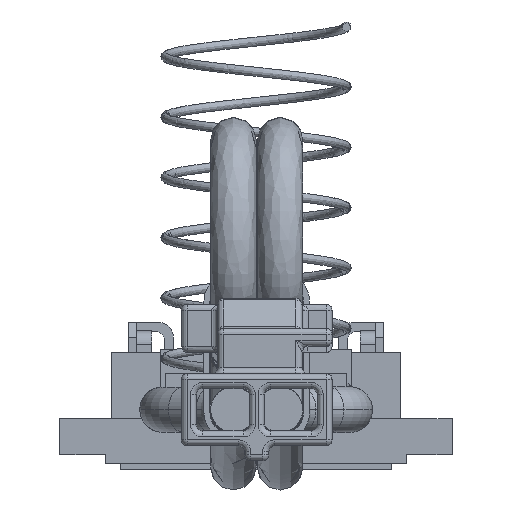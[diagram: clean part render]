
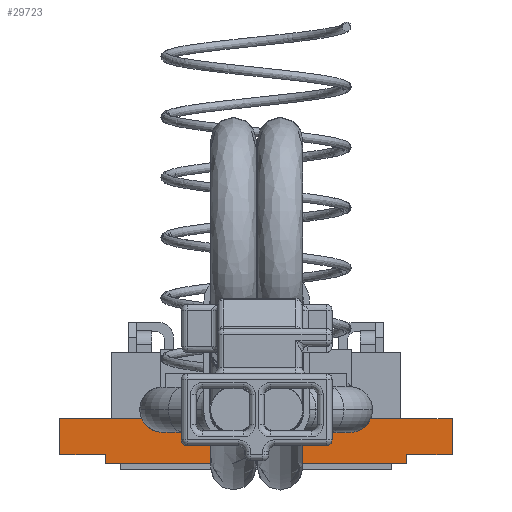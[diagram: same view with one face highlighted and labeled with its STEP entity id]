
A CAD part, left-side view. The second image highlights one B-rep face of the part: STEP entity #29723.
In plain terms, the highlighted planar face has unit normal (-1, 0, 0).
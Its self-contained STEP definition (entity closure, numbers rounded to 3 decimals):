
#94 = CARTESIAN_POINT ( 'NONE',  ( -25., -3.1, 0.74 ) ) ;
#104 = AXIS2_PLACEMENT_3D ( 'NONE', #4076, #14014, #19390 ) ;
#188 = DIRECTION ( 'NONE',  ( 0., 0., 1. ) ) ;
#1331 = CARTESIAN_POINT ( 'NONE',  ( -25., -5., 0. ) ) ;
#1889 = AXIS2_PLACEMENT_3D ( 'NONE', #8942, #30508, #23185 ) ;
#1906 = ORIENTED_EDGE ( 'NONE', *, *, #23669, .F. ) ;
#2147 = VERTEX_POINT ( 'NONE', #19927 ) ;
#2637 = EDGE_CURVE ( 'NONE', #22151, #21062, #11028, .T. ) ;
#2678 = ORIENTED_EDGE ( 'NONE', *, *, #6022, .F. ) ;
#2695 = EDGE_CURVE ( 'NONE', #8199, #28258, #22386, .T. ) ;
#3179 = VECTOR ( 'NONE', #8659, 1000. ) ;
#3352 = CARTESIAN_POINT ( 'NONE',  ( -25., -6.5, 1.2 ) ) ;
#3446 = EDGE_CURVE ( 'NONE', #4476, #17460, #23469, .T. ) ;
#3534 = CARTESIAN_POINT ( 'NONE',  ( -25., 5., 0. ) ) ;
#3681 = DIRECTION ( 'NONE',  ( -1., 0., 0. ) ) ;
#4003 = DIRECTION ( 'NONE',  ( 0., 0., -1. ) ) ;
#4076 = CARTESIAN_POINT ( 'NONE',  ( -25., 3.1, 1.5 ) ) ;
#4405 = EDGE_CURVE ( 'NONE', #21453, #19568, #15669, .T. ) ;
#4475 = DIRECTION ( 'NONE',  ( 0., -1., 0. ) ) ;
#4476 = VERTEX_POINT ( 'NONE', #1331 ) ;
#4633 = CIRCLE ( 'NONE', #104, 0.75 ) ;
#4693 = DIRECTION ( 'NONE',  ( 0., 0., 1. ) ) ;
#4779 = LINE ( 'NONE', #26320, #22896 ) ;
#5228 = VECTOR ( 'NONE', #4475, 1000. ) ;
#5296 = CARTESIAN_POINT ( 'NONE',  ( -25., 3.1, 1.5 ) ) ;
#6022 = EDGE_CURVE ( 'NONE', #22352, #21453, #4633, .T. ) ;
#6045 = VERTEX_POINT ( 'NONE', #28769 ) ;
#6408 = LINE ( 'NONE', #6874, #26729 ) ;
#6542 = VERTEX_POINT ( 'NONE', #10350 ) ;
#6601 = EDGE_CURVE ( 'NONE', #2147, #6542, #6408, .T. ) ;
#6843 = VERTEX_POINT ( 'NONE', #94 ) ;
#6874 = CARTESIAN_POINT ( 'NONE',  ( -25., -5., -0.3 ) ) ;
#7079 = AXIS2_PLACEMENT_3D ( 'NONE', #8888, #27910, #4003 ) ;
#7303 = DIRECTION ( 'NONE',  ( 0., -1., 0. ) ) ;
#7327 = CARTESIAN_POINT ( 'NONE',  ( -25., -5., -0.3 ) ) ;
#7604 = CARTESIAN_POINT ( 'NONE',  ( -25., -5., 1.2 ) ) ;
#8199 = VERTEX_POINT ( 'NONE', #20611 ) ;
#8217 = EDGE_CURVE ( 'NONE', #22151, #16033, #25052, .T. ) ;
#8659 = DIRECTION ( 'NONE',  ( 0., 0., 1. ) ) ;
#8698 = ORIENTED_EDGE ( 'NONE', *, *, #17928, .F. ) ;
#8888 = CARTESIAN_POINT ( 'NONE',  ( -25., -5., -0.3 ) ) ;
#8942 = CARTESIAN_POINT ( 'NONE',  ( -25., -3.1, 1.5 ) ) ;
#9066 = CARTESIAN_POINT ( 'NONE',  ( -25., -5., 0. ) ) ;
#9126 = AXIS2_PLACEMENT_3D ( 'NONE', #5296, #9729, #4693 ) ;
#9373 = ORIENTED_EDGE ( 'NONE', *, *, #6601, .F. ) ;
#9447 = EDGE_CURVE ( 'NONE', #2147, #4476, #16673, .T. ) ;
#9606 = LINE ( 'NONE', #9749, #29558 ) ;
#9729 = DIRECTION ( 'NONE',  ( -1., 0., 0. ) ) ;
#9749 = CARTESIAN_POINT ( 'NONE',  ( -25., -5., 1.2 ) ) ;
#10056 = VECTOR ( 'NONE', #20129, 1000. ) ;
#10350 = CARTESIAN_POINT ( 'NONE',  ( -25., 5., -0.3 ) ) ;
#10458 = CIRCLE ( 'NONE', #1889, 0.76 ) ;
#10763 = CARTESIAN_POINT ( 'NONE',  ( -25., -6.5, 0. ) ) ;
#10960 = ORIENTED_EDGE ( 'NONE', *, *, #22543, .F. ) ;
#11028 = LINE ( 'NONE', #20695, #3179 ) ;
#12215 = DIRECTION ( 'NONE',  ( 0., 0., 1. ) ) ;
#12449 = CARTESIAN_POINT ( 'NONE',  ( -25., 3.787, 1.2 ) ) ;
#13266 = EDGE_LOOP ( 'NONE', ( #16202, #22250, #23195, #18402, #8698, #26604, #10960, #23616, #2678, #1906, #26344, #21058, #25407, #9373 ) ) ;
#13329 = DIRECTION ( 'NONE',  ( 0., -1., 0. ) ) ;
#13670 = CARTESIAN_POINT ( 'NONE',  ( -25., 5., 0. ) ) ;
#14014 = DIRECTION ( 'NONE',  ( -1., 0., 0. ) ) ;
#15669 = CIRCLE ( 'NONE', #9126, 0.75 ) ;
#15973 = CARTESIAN_POINT ( 'NONE',  ( -25., 6.5, 0. ) ) ;
#16033 = VERTEX_POINT ( 'NONE', #13670 ) ;
#16202 = ORIENTED_EDGE ( 'NONE', *, *, #9447, .T. ) ;
#16337 = EDGE_CURVE ( 'NONE', #17460, #28258, #20910, .T. ) ;
#16673 = LINE ( 'NONE', #7327, #30366 ) ;
#17358 = CARTESIAN_POINT ( 'NONE',  ( -25., 6.5, 1.2 ) ) ;
#17460 = VERTEX_POINT ( 'NONE', #29324 ) ;
#17928 = EDGE_CURVE ( 'NONE', #6843, #8199, #10458, .T. ) ;
#18402 = ORIENTED_EDGE ( 'NONE', *, *, #2695, .F. ) ;
#18548 = CARTESIAN_POINT ( 'NONE',  ( -25., -5., 1.2 ) ) ;
#19390 = DIRECTION ( 'NONE',  ( 0., 0., 1. ) ) ;
#19568 = VERTEX_POINT ( 'NONE', #23671 ) ;
#19927 = CARTESIAN_POINT ( 'NONE',  ( -25., -5., -0.3 ) ) ;
#20129 = DIRECTION ( 'NONE',  ( 0., -1., 0. ) ) ;
#20277 = DIRECTION ( 'NONE',  ( 0., 0., 1. ) ) ;
#20437 = CARTESIAN_POINT ( 'NONE',  ( -25., 3.1, 0.75 ) ) ;
#20479 = EDGE_CURVE ( 'NONE', #6542, #16033, #4779, .T. ) ;
#20611 = CARTESIAN_POINT ( 'NONE',  ( -25., -3.798, 1.2 ) ) ;
#20695 = CARTESIAN_POINT ( 'NONE',  ( -25., 6.5, 0. ) ) ;
#20910 = LINE ( 'NONE', #10763, #29216 ) ;
#21016 = VECTOR ( 'NONE', #7303, 1000. ) ;
#21058 = ORIENTED_EDGE ( 'NONE', *, *, #8217, .T. ) ;
#21062 = VERTEX_POINT ( 'NONE', #17358 ) ;
#21212 = VECTOR ( 'NONE', #13329, 1000. ) ;
#21243 = PLANE ( 'NONE',  #7079 ) ;
#21453 = VERTEX_POINT ( 'NONE', #20437 ) ;
#21494 = EDGE_CURVE ( 'NONE', #6045, #6843, #30572, .T. ) ;
#22151 = VERTEX_POINT ( 'NONE', #15973 ) ;
#22250 = ORIENTED_EDGE ( 'NONE', *, *, #3446, .T. ) ;
#22352 = VERTEX_POINT ( 'NONE', #12449 ) ;
#22386 = LINE ( 'NONE', #18548, #5228 ) ;
#22543 = EDGE_CURVE ( 'NONE', #19568, #6045, #9606, .T. ) ;
#22896 = VECTOR ( 'NONE', #188, 1000. ) ;
#23185 = DIRECTION ( 'NONE',  ( 0., 0., 1. ) ) ;
#23195 = ORIENTED_EDGE ( 'NONE', *, *, #16337, .T. ) ;
#23469 = LINE ( 'NONE', #9066, #21212 ) ;
#23616 = ORIENTED_EDGE ( 'NONE', *, *, #4405, .F. ) ;
#23669 = EDGE_CURVE ( 'NONE', #21062, #22352, #29019, .T. ) ;
#23671 = CARTESIAN_POINT ( 'NONE',  ( -25., 2.413, 1.2 ) ) ;
#25052 = LINE ( 'NONE', #3534, #10056 ) ;
#25374 = CARTESIAN_POINT ( 'NONE',  ( -25., -3.1, 1.5 ) ) ;
#25407 = ORIENTED_EDGE ( 'NONE', *, *, #20479, .F. ) ;
#26320 = CARTESIAN_POINT ( 'NONE',  ( -25., 5., -0.3 ) ) ;
#26344 = ORIENTED_EDGE ( 'NONE', *, *, #2637, .F. ) ;
#26604 = ORIENTED_EDGE ( 'NONE', *, *, #21494, .F. ) ;
#26729 = VECTOR ( 'NONE', #28593, 1000. ) ;
#27158 = DIRECTION ( 'NONE',  ( 0., -1., 0. ) ) ;
#27734 = DIRECTION ( 'NONE',  ( 0., 0., 1. ) ) ;
#27910 = DIRECTION ( 'NONE',  ( 1., 0., 0. ) ) ;
#28258 = VERTEX_POINT ( 'NONE', #3352 ) ;
#28593 = DIRECTION ( 'NONE',  ( 0., 1., 0. ) ) ;
#28769 = CARTESIAN_POINT ( 'NONE',  ( -25., -2.402, 1.2 ) ) ;
#29019 = LINE ( 'NONE', #7604, #21016 ) ;
#29216 = VECTOR ( 'NONE', #27734, 1000. ) ;
#29324 = CARTESIAN_POINT ( 'NONE',  ( -25., -6.5, 0. ) ) ;
#29558 = VECTOR ( 'NONE', #27158, 1000. ) ;
#29723 = ADVANCED_FACE ( 'NONE', ( #30613 ), #21243, .F. ) ;
#30050 = AXIS2_PLACEMENT_3D ( 'NONE', #25374, #3681, #20277 ) ;
#30366 = VECTOR ( 'NONE', #12215, 1000. ) ;
#30508 = DIRECTION ( 'NONE',  ( -1., 0., 0. ) ) ;
#30572 = CIRCLE ( 'NONE', #30050, 0.76 ) ;
#30613 = FACE_OUTER_BOUND ( 'NONE', #13266, .T. ) ;
